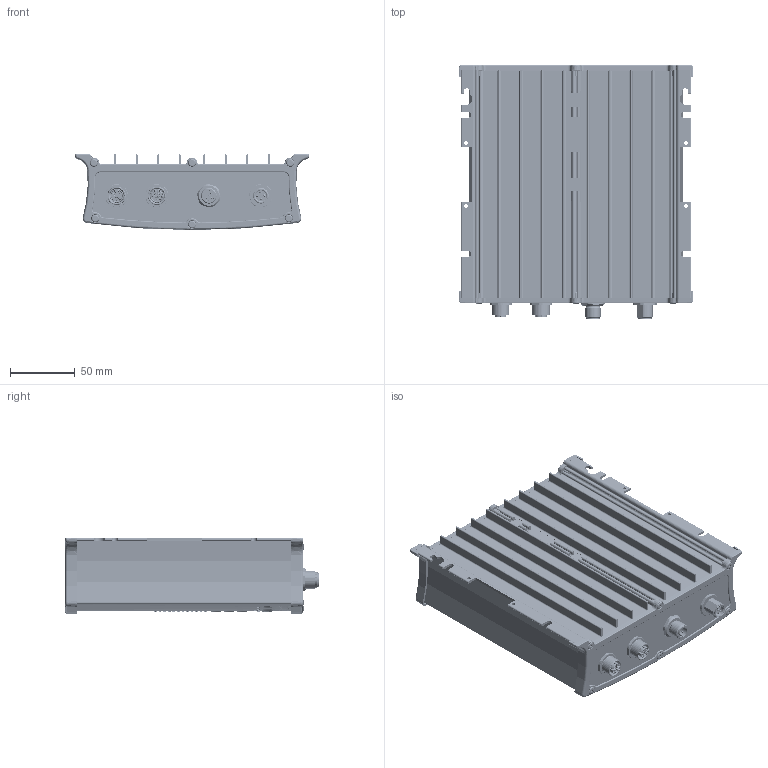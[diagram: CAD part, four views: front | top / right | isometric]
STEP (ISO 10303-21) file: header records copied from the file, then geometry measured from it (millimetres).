
FILE_DESCRIPTION (( 'STEP AP214' ), '1' );
FILE_NAME ('451.16.01.STEP', '2024-08-01T06:09:59', ( '' ), ( '' ), 'SwSTEP 2.0', 'SolidWorks 2024', '' );
FILE_SCHEMA (( 'AUTOMOTIVE_DESIGN' ));
Length unit declared in the file: millimetre
Products named in the file (1): 451.16.01
Bounding box: 180.63 x 195.55 x 58.73 mm (x, y, z)
Volume: 261675.7 mm3; surface area: 348988.2 mm2
Topology: 56 solids, 57 shells, 4361 faces, 11415 edges, 7535 vertices
Faces by surface type: plane 1468, cylinder 1227, bspline 874, torus 523, cone 247, sphere 22
Full cylindrical faces by diameter (mm): 0.56 x6, 1 x5, 1.5 x7, 1.6 x30, 1.8 x1, 1.85 x20, 2 x14, 2.17 x4, 2.2 x14, 2.23 x4, 2.3 x8, 2.6 x14, 2.7 x4, 3 x12, 3.6 x12, 5 x3, 6 x24, 8.3 x1, 8.35 x1, 8.75 x2, 10.3 x1, 10.5 x1, 10.6 x2, 10.65 x1, 10.917 x2, 11 x1, 12 x11, 12.15 x1, 12.2 x2, 13.3 x4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
Entity records: 308981 total; most frequent: CARTESIAN_POINT 163058, ORIENTED_EDGE 21558, DIRECTION 17573, EDGE_CURVE 10779, VERTEX_POINT 7319, AXIS2_PLACEMENT_3D 6967, EDGE_LOOP 5234, FACE_OUTER_BOUND 4692
